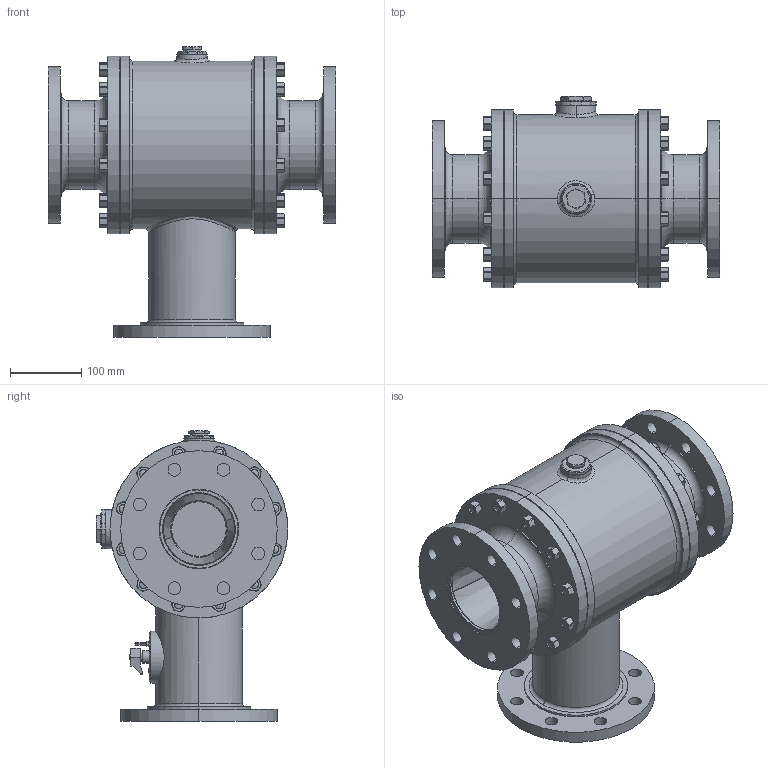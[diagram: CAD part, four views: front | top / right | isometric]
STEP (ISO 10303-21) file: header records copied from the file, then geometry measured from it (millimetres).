
FILE_DESCRIPTION (( 'STEP AP214' ), '1' );
FILE_NAME ('22T70100.STEP', '2018-11-09T10:39:30', ( '' ), ( '' ), 'SwSTEP 2.0', 'SolidWorks 2017', '' );
FILE_SCHEMA (( 'AUTOMOTIVE_DESIGN' ));
Length unit declared in the file: millimetre
Products named in the file (44): 22100910; 22100021; 22100770; 22100869; 22100911U; 22100862; 22100913U; 22100745_22100745; 22100946; 22100756; 22100709; 22100729; 22100717; 22100948; 22109349; 22016164; 22019780_22109325U; 22100728; 22TB109329_D‚form‚; 22109309; 22100738; 22100916; 22100947; 23010010_23010018; 22100330; 22100719; 22100864; 22100720; 22100342_22100745; 22100968U; 22100890; 22100714; 22100951U; 22100970; 22100460U; 22100715; 22108632; 22100771; 22100917; 22101190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
Assembly tree (137 placements, depth 4):
  22T70100
    22109309
      22100911U
      22100715
      22100917
    22TB109329_D‚form‚
      22100951U
      22100756  x6
      22100745_22100745  x3
      22100755  x6
      22019780_22109325U  x3
        22100890
        22100021
      22101190
      22100330  x22
      22100342_22100745  x6
      22100968U
      22100771
      22100970
      22108632  x2
      22100347  x3
      22100770
      22100719
    22100946
    22100709
    22100827
    22100728
    22100862  x24
    22100910  x2
    22100913U  x2
    22109349  x2
      22100947
      22100948
    22100864  x24
    22100869
    22100460U
    22100720
    22016164  x2
    22100330
    22100714
    22100717
    22100729
    22100916
    23010010_23010018
    22100738
Bounding box: 404 x 269.5 x 408 mm (x, y, z)
Volume: 6920633.8 mm3; surface area: 1421573.1 mm2
Topology: 136 solids, 136 shells, 3140 faces, 7735 edges, 4932 vertices
Faces by surface type: plane 1132, cylinder 1031, cone 594, bspline 144, torus 137, sphere 102
Entity records: 57604 total; most frequent: CARTESIAN_POINT 18825, DIRECTION 7248, ORIENTED_EDGE 7078, EDGE_CURVE 3539, AXIS2_PLACEMENT_3D 2676, VERTEX_POINT 2293, VECTOR 1896, LINE 1896
